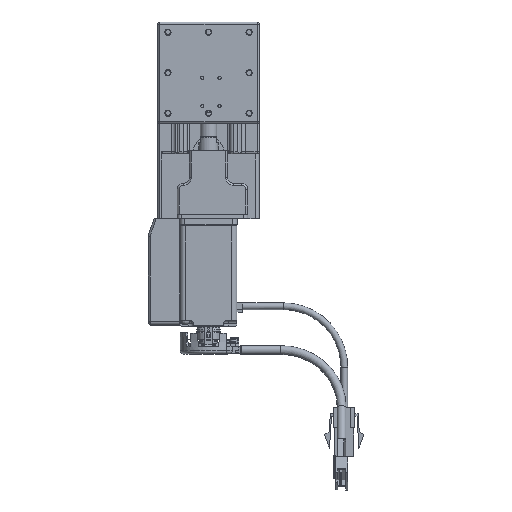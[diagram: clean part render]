
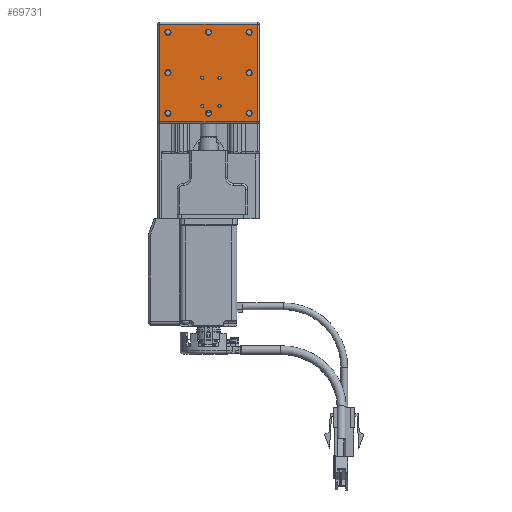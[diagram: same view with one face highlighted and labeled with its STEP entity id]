
A CAD part, top view. The second image highlights one B-rep face of the part: STEP entity #69731.
In plain terms, the highlighted planar face has unit normal (0, 0, 1) as drawn and (0, 1, 0) by its records, which use the part's own axes.
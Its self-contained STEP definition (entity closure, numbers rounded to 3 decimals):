
#1012=CIRCLE('',#83666,0.8);
#1015=CIRCLE('',#83671,0.8);
#1017=CIRCLE('',#83674,0.8);
#1019=CIRCLE('',#83677,0.8);
#1023=CIRCLE('',#83683,1.525);
#1026=CIRCLE('',#83688,1.525);
#1029=CIRCLE('',#83693,1.525);
#1032=CIRCLE('',#83698,1.525);
#1035=CIRCLE('',#83703,1.525);
#1038=CIRCLE('',#83708,1.525);
#1042=CIRCLE('',#83714,1.525);
#1045=CIRCLE('',#83719,1.525);
#4953=ORIENTED_EDGE('',*,*,#24681,.T.);
#4954=ORIENTED_EDGE('',*,*,#24684,.T.);
#4955=ORIENTED_EDGE('',*,*,#24686,.T.);
#4956=ORIENTED_EDGE('',*,*,#24688,.T.);
#4957=ORIENTED_EDGE('',*,*,#24692,.F.);
#4958=ORIENTED_EDGE('',*,*,#24695,.F.);
#4959=ORIENTED_EDGE('',*,*,#24698,.F.);
#4960=ORIENTED_EDGE('',*,*,#24701,.F.);
#4961=ORIENTED_EDGE('',*,*,#24704,.F.);
#4962=ORIENTED_EDGE('',*,*,#24707,.F.);
#4963=ORIENTED_EDGE('',*,*,#24711,.F.);
#4964=ORIENTED_EDGE('',*,*,#24714,.F.);
#4965=ORIENTED_EDGE('',*,*,#24802,.T.);
#4966=ORIENTED_EDGE('',*,*,#24803,.T.);
#4967=ORIENTED_EDGE('',*,*,#24804,.T.);
#4968=ORIENTED_EDGE('',*,*,#24805,.T.);
#24681=EDGE_CURVE('',#34720,#34720,#1012,.T.);
#24684=EDGE_CURVE('',#34723,#34723,#1015,.T.);
#24686=EDGE_CURVE('',#34725,#34725,#1017,.T.);
#24688=EDGE_CURVE('',#34727,#34727,#1019,.T.);
#24692=EDGE_CURVE('',#34731,#34731,#1023,.T.);
#24695=EDGE_CURVE('',#34734,#34734,#1026,.T.);
#24698=EDGE_CURVE('',#34737,#34737,#1029,.T.);
#24701=EDGE_CURVE('',#34740,#34740,#1032,.T.);
#24704=EDGE_CURVE('',#34743,#34743,#1035,.T.);
#24707=EDGE_CURVE('',#34746,#34746,#1038,.T.);
#24711=EDGE_CURVE('',#34750,#34750,#1042,.T.);
#24714=EDGE_CURVE('',#34753,#34753,#1045,.T.);
#24802=EDGE_CURVE('',#34826,#34827,#41706,.T.);
#24803=EDGE_CURVE('',#34827,#34828,#41707,.T.);
#24804=EDGE_CURVE('',#34828,#34829,#41708,.T.);
#24805=EDGE_CURVE('',#34829,#34826,#41709,.T.);
#34720=VERTEX_POINT('',#109643);
#34723=VERTEX_POINT('',#109651);
#34725=VERTEX_POINT('',#109656);
#34727=VERTEX_POINT('',#109661);
#34731=VERTEX_POINT('',#109671);
#34734=VERTEX_POINT('',#109679);
#34737=VERTEX_POINT('',#109687);
#34740=VERTEX_POINT('',#109695);
#34743=VERTEX_POINT('',#109703);
#34746=VERTEX_POINT('',#109711);
#34750=VERTEX_POINT('',#109721);
#34753=VERTEX_POINT('',#109729);
#34826=VERTEX_POINT('',#109906);
#34827=VERTEX_POINT('',#109907);
#34828=VERTEX_POINT('',#109909);
#34829=VERTEX_POINT('',#109911);
#41706=LINE('',#109905,#49823);
#41707=LINE('',#109908,#49824);
#41708=LINE('',#109910,#49825);
#41709=LINE('',#109912,#49826);
#49823=VECTOR('',#90449,1000.);
#49824=VECTOR('',#90450,1000.);
#49825=VECTOR('',#90451,1000.);
#49826=VECTOR('',#90452,1000.);
#57783=EDGE_LOOP('',(#4953));
#57784=EDGE_LOOP('',(#4954));
#57785=EDGE_LOOP('',(#4955));
#57786=EDGE_LOOP('',(#4956));
#57787=EDGE_LOOP('',(#4957));
#57788=EDGE_LOOP('',(#4958));
#57789=EDGE_LOOP('',(#4959));
#57790=EDGE_LOOP('',(#4960));
#57791=EDGE_LOOP('',(#4961));
#57792=EDGE_LOOP('',(#4962));
#57793=EDGE_LOOP('',(#4963));
#57794=EDGE_LOOP('',(#4964));
#57795=EDGE_LOOP('',(#4965,#4966,#4967,#4968));
#62375=FACE_BOUND('',#57783,.T.);
#62376=FACE_BOUND('',#57784,.T.);
#62377=FACE_BOUND('',#57785,.T.);
#62378=FACE_BOUND('',#57786,.T.);
#62379=FACE_BOUND('',#57787,.T.);
#62380=FACE_BOUND('',#57788,.T.);
#62381=FACE_BOUND('',#57789,.T.);
#62382=FACE_BOUND('',#57790,.T.);
#62383=FACE_BOUND('',#57791,.T.);
#62384=FACE_BOUND('',#57792,.T.);
#62385=FACE_BOUND('',#57793,.T.);
#62386=FACE_BOUND('',#57794,.T.);
#62387=FACE_BOUND('',#57795,.T.);
#66759=PLANE('',#83735);
#69731=ADVANCED_FACE('',(#62375,#62376,#62377,#62378,#62379,#62380,#62381,
#62382,#62383,#62384,#62385,#62386,#62387),#66759,.F.);
#83666=AXIS2_PLACEMENT_3D('',#109642,#90222,#90223);
#83671=AXIS2_PLACEMENT_3D('',#109650,#90232,#90233);
#83674=AXIS2_PLACEMENT_3D('',#109655,#90238,#90239);
#83677=AXIS2_PLACEMENT_3D('',#109660,#90244,#90245);
#83683=AXIS2_PLACEMENT_3D('',#109670,#90256,#90257);
#83688=AXIS2_PLACEMENT_3D('',#109678,#90266,#90267);
#83693=AXIS2_PLACEMENT_3D('',#109686,#90276,#90277);
#83698=AXIS2_PLACEMENT_3D('',#109694,#90286,#90287);
#83703=AXIS2_PLACEMENT_3D('',#109702,#90296,#90297);
#83708=AXIS2_PLACEMENT_3D('',#109710,#90306,#90307);
#83714=AXIS2_PLACEMENT_3D('',#109720,#90318,#90319);
#83719=AXIS2_PLACEMENT_3D('',#109728,#90328,#90329);
#83735=AXIS2_PLACEMENT_3D('',#109904,#90447,#90448);
#90222=DIRECTION('',(0.,-1.,0.));
#90223=DIRECTION('',(0.,0.,1.));
#90232=DIRECTION('',(0.,-1.,0.));
#90233=DIRECTION('',(0.,0.,1.));
#90238=DIRECTION('',(0.,-1.,0.));
#90239=DIRECTION('',(0.,0.,1.));
#90244=DIRECTION('',(0.,-1.,0.));
#90245=DIRECTION('',(0.,0.,1.));
#90256=DIRECTION('',(0.,1.,0.));
#90257=DIRECTION('',(0.,0.,-1.));
#90266=DIRECTION('',(0.,1.,0.));
#90267=DIRECTION('',(0.,0.,-1.));
#90276=DIRECTION('',(0.,1.,0.));
#90277=DIRECTION('',(0.,0.,-1.));
#90286=DIRECTION('',(0.,1.,0.));
#90287=DIRECTION('',(0.,0.,-1.));
#90296=DIRECTION('',(0.,1.,0.));
#90297=DIRECTION('',(0.,0.,-1.));
#90306=DIRECTION('',(0.,1.,0.));
#90307=DIRECTION('',(0.,0.,-1.));
#90318=DIRECTION('',(0.,1.,0.));
#90319=DIRECTION('',(0.,0.,-1.));
#90328=DIRECTION('',(0.,1.,0.));
#90329=DIRECTION('',(0.,0.,-1.));
#90447=DIRECTION('',(0.,-1.,0.));
#90448=DIRECTION('',(0.,0.,1.));
#90449=DIRECTION('',(0.,0.,1.));
#90450=DIRECTION('',(1.,0.,0.));
#90451=DIRECTION('',(0.,0.,-1.));
#90452=DIRECTION('',(-1.,0.,0.));
#109642=CARTESIAN_POINT('',(5.45,30.,27.5));
#109643=CARTESIAN_POINT('',(5.45,30.,28.3));
#109650=CARTESIAN_POINT('',(-3.05,30.,27.5));
#109651=CARTESIAN_POINT('',(-3.05,30.,28.3));
#109655=CARTESIAN_POINT('',(5.45,30.,41.5));
#109656=CARTESIAN_POINT('',(5.45,30.,42.3));
#109660=CARTESIAN_POINT('',(-3.05,30.,41.5));
#109661=CARTESIAN_POINT('',(-3.05,30.,42.3));
#109670=CARTESIAN_POINT('',(20.,30.,45.));
#109671=CARTESIAN_POINT('',(20.,30.,43.475));
#109678=CARTESIAN_POINT('',(20.,30.,25.));
#109679=CARTESIAN_POINT('',(20.,30.,23.475));
#109686=CARTESIAN_POINT('',(20.,30.,5.));
#109687=CARTESIAN_POINT('',(20.,30.,3.475));
#109694=CARTESIAN_POINT('',(-20.,30.,5.));
#109695=CARTESIAN_POINT('',(-20.,30.,3.475));
#109702=CARTESIAN_POINT('',(-20.,30.,25.));
#109703=CARTESIAN_POINT('',(-20.,30.,23.475));
#109710=CARTESIAN_POINT('',(-20.,30.,45.));
#109711=CARTESIAN_POINT('',(-20.,30.,43.475));
#109720=CARTESIAN_POINT('',(0.,30.,45.));
#109721=CARTESIAN_POINT('',(0.,30.,43.475));
#109728=CARTESIAN_POINT('',(0.,30.,5.));
#109729=CARTESIAN_POINT('',(0.,30.,3.475));
#109904=CARTESIAN_POINT('',(15.,30.,0.));
#109905=CARTESIAN_POINT('',(-24.,30.,0.));
#109906=CARTESIAN_POINT('',(-24.,30.,1.));
#109907=CARTESIAN_POINT('',(-24.,30.,49.));
#109908=CARTESIAN_POINT('',(25.,30.,49.));
#109909=CARTESIAN_POINT('',(24.,30.,49.));
#109910=CARTESIAN_POINT('',(24.,30.,0.));
#109911=CARTESIAN_POINT('',(24.,30.,1.));
#109912=CARTESIAN_POINT('',(15.,30.,1.));
